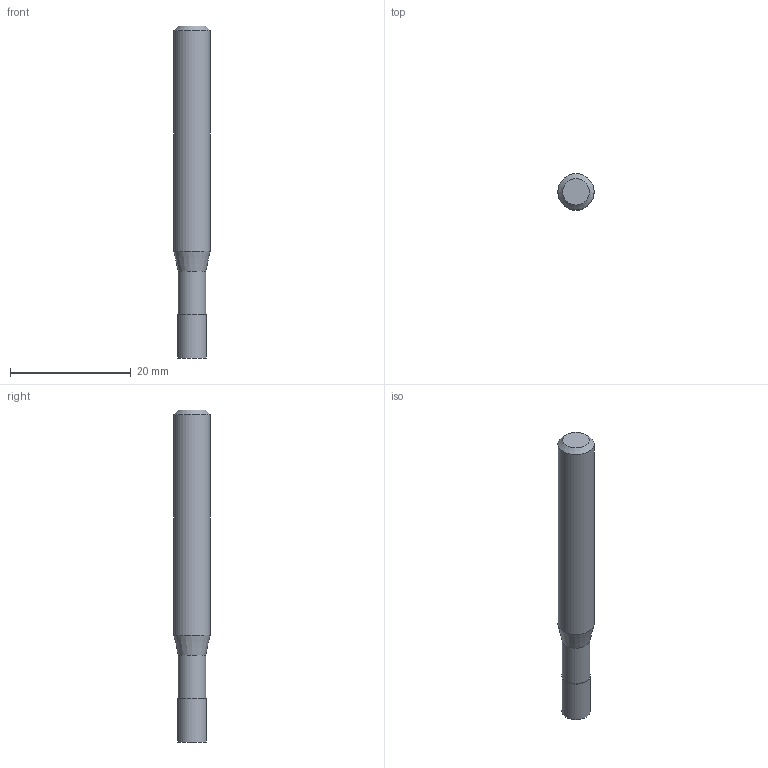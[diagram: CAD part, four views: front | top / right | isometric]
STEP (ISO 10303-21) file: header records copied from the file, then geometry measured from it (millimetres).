
FILE_DESCRIPTION((''),'2;1');
FILE_NAME('C:\Users\nsx150\AppData\Local\Temp\Mastercam 2021\EUJSUNXURU\TEMP.step','2021-04-22T10:28:28',(''),(''),'STEP Write','Mastercam 2021 ... CNC Software, Inc.','');
FILE_SCHEMA(('AUTOMOTIVE_DESIGN'));
Length unit declared in the file: millimetre
Products named in the file (1): None
Bounding box: 6 x 6 x 55 mm (x, y, z)
Volume: 1372.4 mm3; surface area: 1043.3 mm2
Topology: 2 solids, 2 shells, 9 faces, 12 edges, 7 vertices
Faces by surface type: plane 4, cylinder 3, cone 2
Full cylindrical faces by diameter (mm): 4.6 x1, 4.8 x1, 6 x1
Entity records: 211 total; most frequent: DIRECTION 36, CARTESIAN_POINT 25, AXIS2_PLACEMENT_3D 18, ORIENTED_EDGE 14, EDGE_LOOP 14, STYLED_ITEM 12, ADVANCED_FACE 9, FACE_BOUND 8
